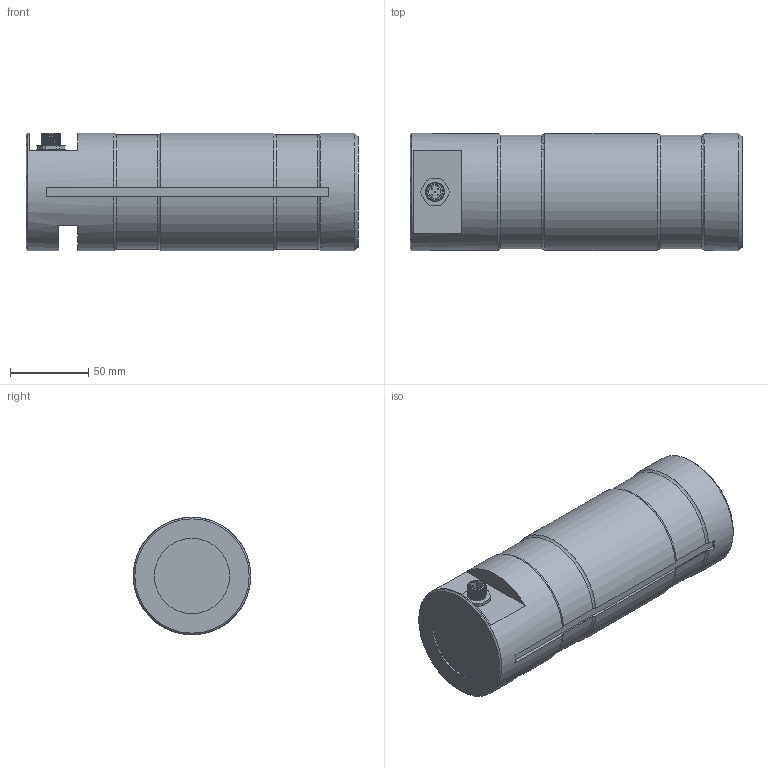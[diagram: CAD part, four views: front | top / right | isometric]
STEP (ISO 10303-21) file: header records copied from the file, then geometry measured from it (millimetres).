
FILE_DESCRIPTION(/* description */ ('Alibre Inc.'),/* implementation_level */ '2;1');
FILE_NAME(/* name */ 'export0',/* time_stamp */ '2015-09-03T21:19:58+02:00',/* author */ (''),/* organization */ (''),/* preprocessor_version */ 'ST-DEVELOPER v14',/* originating_system */ 'Alibre',/* authorisation */ '');
FILE_SCHEMA (('CONFIG_CONTROL_DESIGN'));
Length unit declared in the file: centimetre
Products named in the file (6): ID_1; ID_2; ID_3; ID_4
Bounding box: 212 x 75 x 75 mm (x, y, z)
Volume: 895199.4 mm3; surface area: 65806.4 mm2
Topology: 8 solids, 8 shells, 149 faces, 334 edges, 209 vertices
Faces by surface type: plane 62, cylinder 49, bspline 23, torus 9, cone 6
Full cylindrical faces by diameter (mm): 0.5 x8, 0.504 x1, 8 x2, 10 x4, 11.5 x1, 13 x1, 14.376 x1, 48 x1, 75 x2
Entity records: 14184 total; most frequent: CARTESIAN_POINT 10955, ORIENTED_EDGE 594, DIRECTION 384, EDGE_CURVE 292, VERTEX_POINT 197, FACE_BOUND 194, EDGE_LOOP 193, AXIS2_PLACEMENT_3D 172
